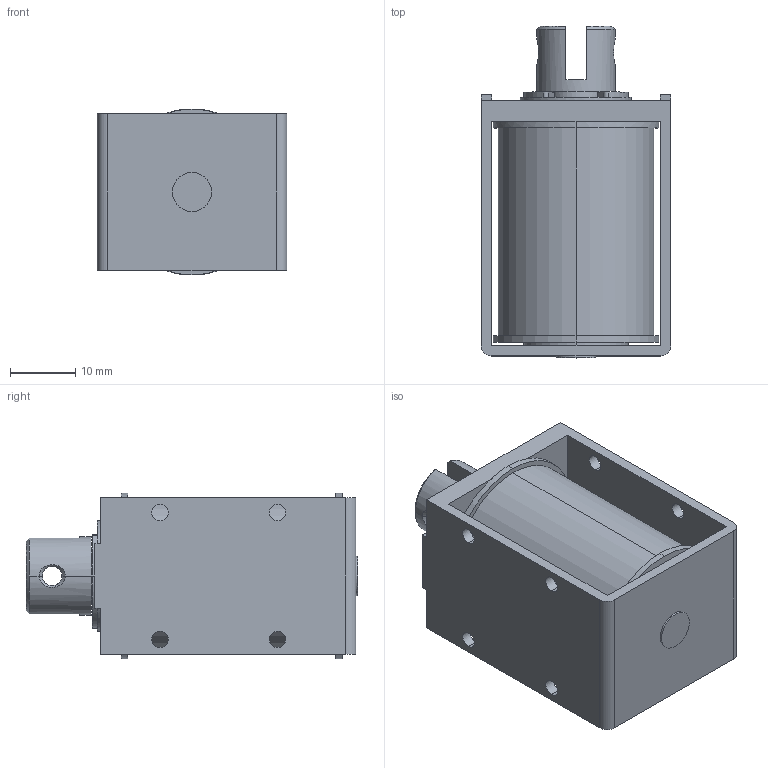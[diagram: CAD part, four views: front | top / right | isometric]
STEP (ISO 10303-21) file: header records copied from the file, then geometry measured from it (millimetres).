
FILE_DESCRIPTION (( 'STEP AP203' ), '1' );
FILE_NAME ('w_ce1240.STEP', '2014-07-24T03:07:22', ( 'jiba' ), ( 'Hewlett-Packard Company' ), 'SwSTEP 2.0', 'SolidWorks 2014', '' );
FILE_SCHEMA (( 'CONFIG_CONTROL_DESIGN' ));
Length unit declared in the file: millimetre
Products named in the file (3): Part6^w_ce1240; Part1^w_ce1240_pl; w_ce1240
Assembly tree (2 placements, depth 2):
  w_ce1240
    Part6^w_ce1240
    Part1^w_ce1240_pl
Bounding box: 29 x 50.8 x 25.4 mm (x, y, z)
Volume: 22060.1 mm3; surface area: 12196.3 mm2
Topology: 2 solids, 2 shells, 129 faces, 354 edges, 231 vertices
Faces by surface type: cylinder 69, plane 53, cone 7
Entity records: 5559 total; most frequent: CARTESIAN_POINT 2056, ORIENTED_EDGE 708, DIRECTION 603, EDGE_CURVE 354, VERTEX_POINT 231, AXIS2_PLACEMENT_3D 227, EDGE_LOOP 161, LINE 149
